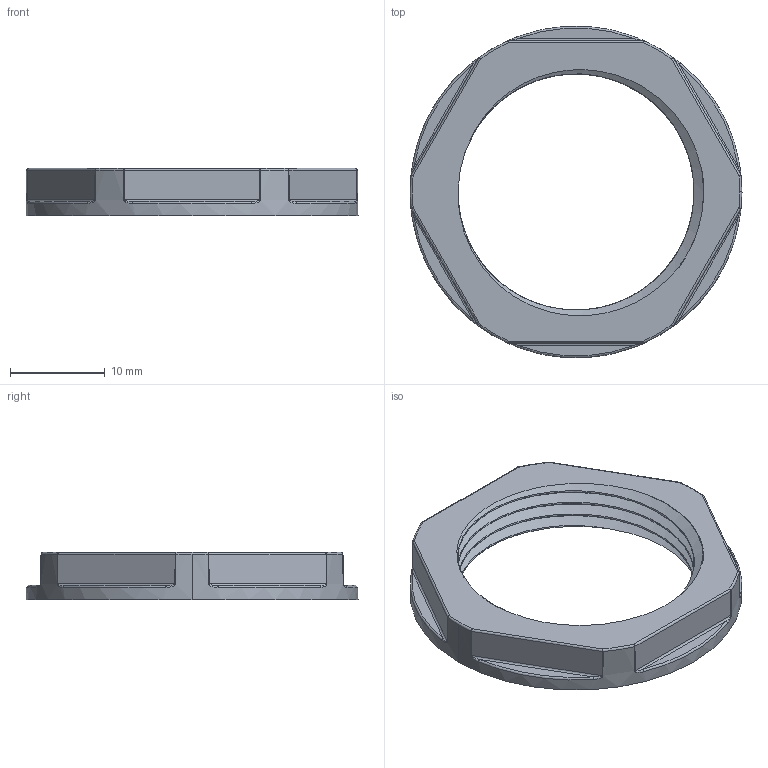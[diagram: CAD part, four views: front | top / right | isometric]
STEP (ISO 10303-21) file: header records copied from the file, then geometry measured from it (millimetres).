
FILE_DESCRIPTION (( 'STEP AP203' ), '1' );
FILE_NAME ('plc-pg-21-00.00.003 Ãàéêà ïðèæèìíàÿ (PG21-Ì27) #clamping nut (PG21-M27)#.STEP', '2021-06-02T07:13:16', ( '' ), ( '' ), 'SwSTEP 2.0', 'SolidWorks 2021', '' );
FILE_SCHEMA (( 'CONFIG_CONTROL_DESIGN' ));
Length unit declared in the file: millimetre
Products named in the file (1): plc-pg-21-00.00.003 Ãàéêà ïðèæèìíàÿ (PG21-Ì27) #clamping nut (PG21-M27)#
Bounding box: 35.09 x 35.09 x 5 mm (x, y, z)
Volume: 1853.8 mm3; surface area: 2116.9 mm2
Topology: 1 solids, 1 shells, 88 faces, 197 edges, 111 vertices
Faces by surface type: bspline 27, cylinder 20, plane 14, torus 13, sphere 12, cone 2
Entity records: 5612 total; most frequent: CARTESIAN_POINT 3787, ORIENTED_EDGE 394, DIRECTION 343, EDGE_CURVE 197, AXIS2_PLACEMENT_3D 155, VERTEX_POINT 111, CIRCLE 93, EDGE_LOOP 90
